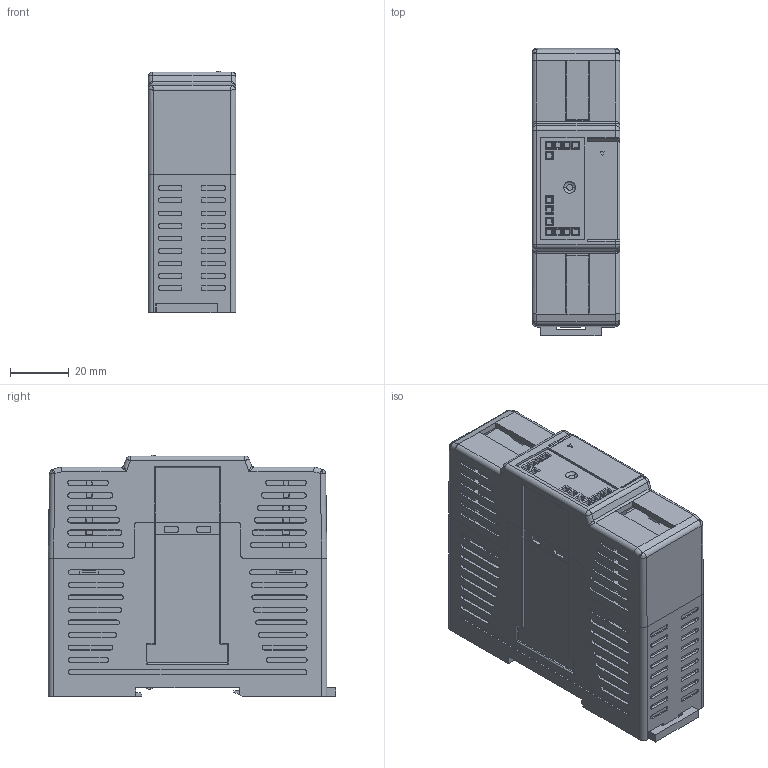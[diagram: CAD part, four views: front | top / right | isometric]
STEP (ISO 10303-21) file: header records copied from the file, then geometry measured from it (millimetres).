
FILE_DESCRIPTION (( 'STEP AP203' ), '1' );
FILE_NAME ('×îÐÂ.STEP', '2023-06-10T02:41:44', ( 'h''w''s''j''s' ), ( '' ), 'SwSTEP 2.0', 'SolidWorks 2020', '' );
FILE_SCHEMA (( 'CONFIG_CONTROL_DESIGN' ));
Length unit declared in the file: millimetre
Products named in the file (1): 郔陔
Bounding box: 30 x 98 x 82.2 mm (x, y, z)
Surface area: 59191.9 mm2
Topology: 3 solids, 4 shells, 1426 faces, 3749 edges, 2429 vertices
Faces by surface type: plane 1058, cylinder 200, cone 130, bspline 17, torus 15, sphere 6
Entity records: 44346 total; most frequent: CARTESIAN_POINT 8806, ORIENTED_EDGE 7474, DIRECTION 7081, EDGE_CURVE 3737, VECTOR 3041, LINE 3041, VERTEX_POINT 2429, AXIS2_PLACEMENT_3D 2020
